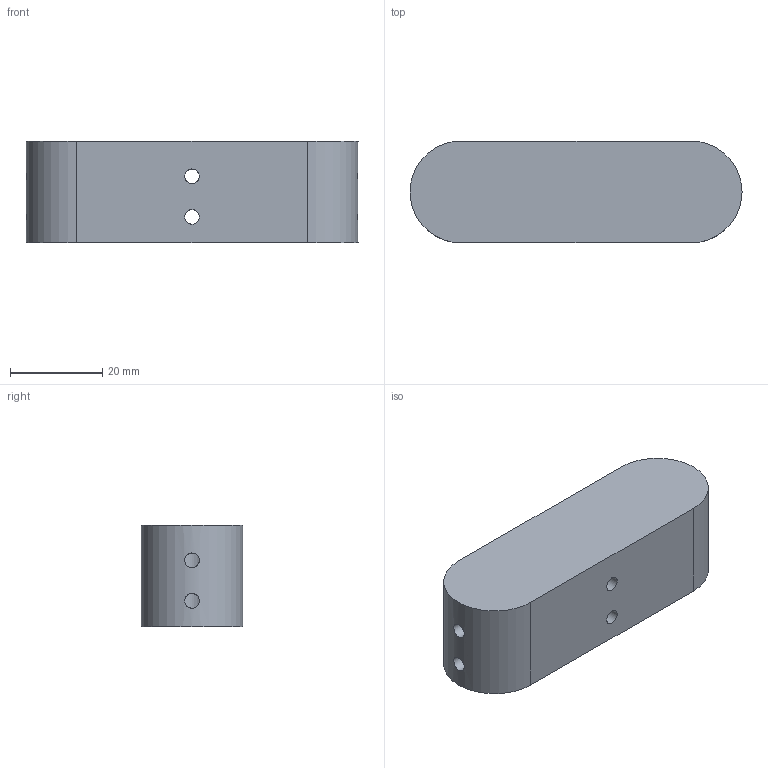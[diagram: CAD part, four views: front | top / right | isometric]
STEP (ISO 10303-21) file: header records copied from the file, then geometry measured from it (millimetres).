
FILE_DESCRIPTION(/* description */ (''),/* implementation_level */ '2;1');
FILE_NAME(/* name */ 'zaslepka.step',/* time_stamp */ '2026-03-04T15:16:07+01:00',/* author */ (''),/* organization */ (''),/* preprocessor_version */ 'ST-DEVELOPER v20.1',/* originating_system */ 'Autodesk Translation Framework v14.24.0.0',/* authorisation */ '');
FILE_SCHEMA (('AUTOMOTIVE_DESIGN { 1 0 10303 214 3 1 1 }'));
Length unit declared in the file: millimetre
Products named in the file (1): zaslepka
Bounding box: 72.1 x 22.1 x 22 mm (x, y, z)
Volume: 30061.8 mm3; surface area: 8465.8 mm2
Topology: 1 solids, 1 shells, 20 faces, 51 edges, 34 vertices
Faces by surface type: cylinder 13, plane 7
Full cylindrical faces by diameter (mm): 3.2 x8, 6.1 x2, 8.1 x1
Entity records: 1042 total; most frequent: CARTESIAN_POINT 506, ORIENTED_EDGE 102, DIRECTION 91, EDGE_CURVE 51, EDGE_LOOP 37, AXIS2_PLACEMENT_3D 35, VERTEX_POINT 34, LINE 21
